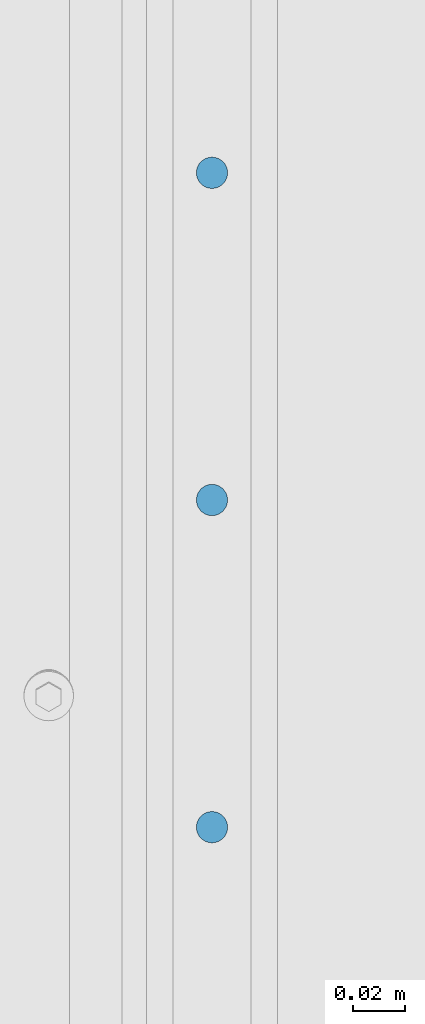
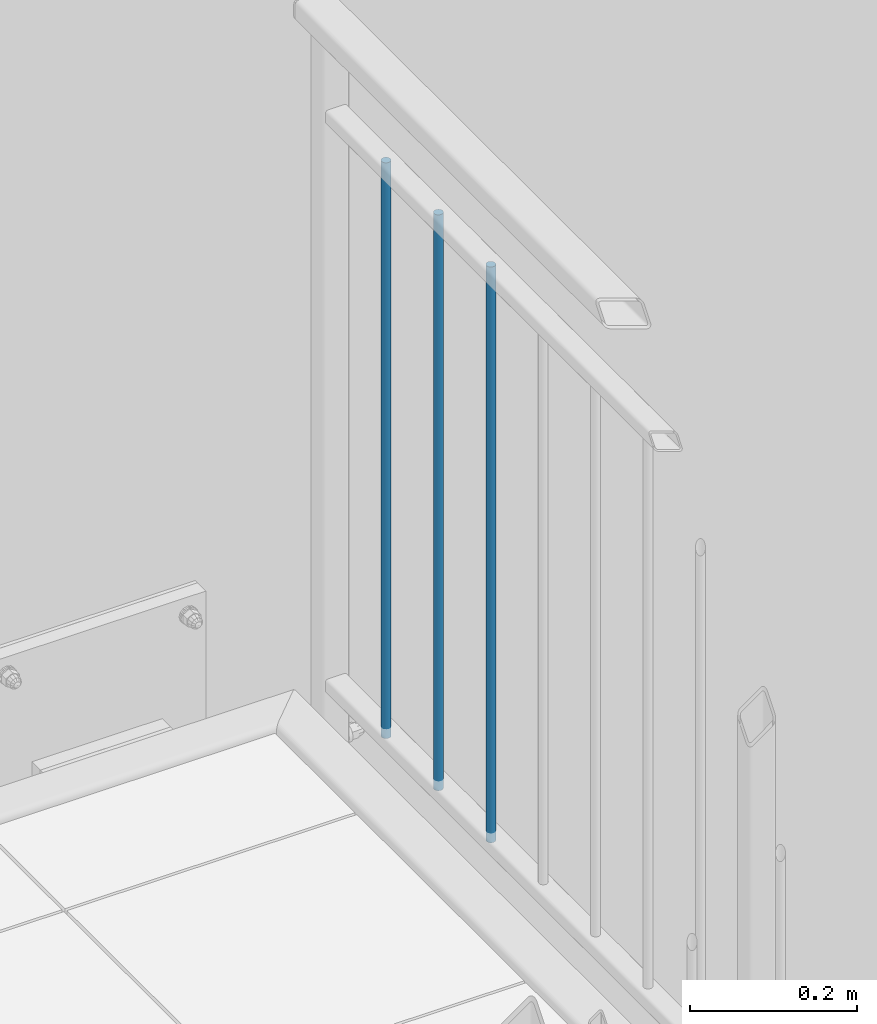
# One storey, part 35 of 162: 3 columns.
"""IFC2X3 building model written with IfcOpenShell, lengths in millimetres."""

from ifc_helpers import new_model, entity, si_unit, converted_unit, frame, origin, origin_with_axes, origin_2d, place, context, project, spatial, circle, extrude, material, element, save


model = new_model("IFC2X3")

# Units and contexts
model_context = context("Model", 3, precision=1e-09, world=origin_with_axes())
ifc_project = project(units=[si_unit("LENGTHUNIT", "METRE", prefix="MILLI"), si_unit("AREAUNIT", "SQUARE_METRE"), si_unit("VOLUMEUNIT", "CUBIC_METRE"), converted_unit("PLANEANGLEUNIT", "DEGREE", entity("IfcPlaneAngleMeasure", 0.01745329), si_unit("PLANEANGLEUNIT", "RADIAN"), dimensions=[0, 0, 0, 0, 0, 0, 0])], contexts=[model_context])

# Site, building, storey
site_placement = place(None, origin_with_axes())
site = spatial("IfcSite", under=ifc_project, at=site_placement, Name="Hermannstra?e 1a, 60318 Frankfurt", CompositionType="ELEMENT")
building_placement = place(site_placement, origin_with_axes())
building = spatial("IfcBuilding", under=site, at=building_placement, Name="Struktur 1", CompositionType="ELEMENT")
storey_placement = place(building_placement, origin_with_axes())
storey = spatial("IfcBuildingStorey", under=building, at=storey_placement, Name="Default Storey", CompositionType="ELEMENT", Elevation=0.0)

# Columns
ifc_material = material(Name="S235JR")
for number, where, z_axis, x_axis in (
    (1, (5848.30936482, 2496.359373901, 3980.0), (0.0, 0.0, -1.0), (0.0, -1.0, 0.0)),
    (2, (5848.30936482, 2371.109373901, 3980.0), (0.0, 0.0, -1.0), (0.0, -1.0, 0.0)),
    (3, (5848.30936482, 2245.859373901, 3980.0), (0.0, 0.0, -1.0), (0.0, -1.0, 0.0)),
):
    element("IfcColumn", number, at=place(None, frame(where, z_axis=z_axis, x_axis=x_axis)), inside=storey, material=ifc_material, Name="-", ObjectType="-", context=model_context, shape_type="SweptSolid", body=[
        extrude(circle(Radius=6.0, at=origin_2d()), origin(), (0.0, 0.0, -1.0), 840.0),
    ])

save(model, "model.ifc")
